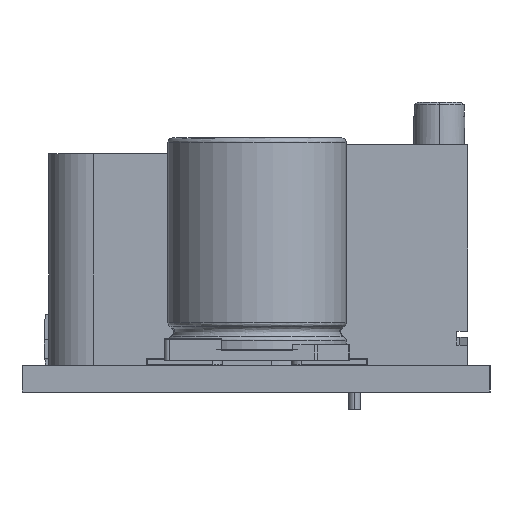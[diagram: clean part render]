
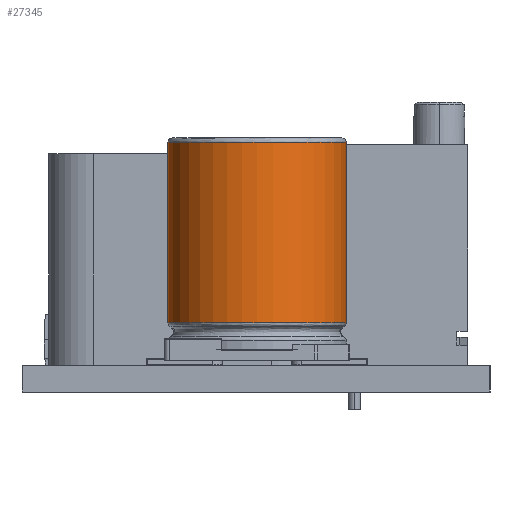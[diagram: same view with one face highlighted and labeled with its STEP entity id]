
A CAD part, left-side view. The second image highlights one B-rep face of the part: STEP entity #27345.
In plain terms, the highlighted cylindrical face has radius 4 mm (diameter 8 mm), a partial arc.
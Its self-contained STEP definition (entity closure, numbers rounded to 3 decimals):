
#2735 = DIRECTION ( 'NONE',  ( 1., 0., 0. ) ) ;
#4588 = CARTESIAN_POINT ( 'NONE',  ( 4., 0., 10. ) ) ;
#5840 = EDGE_CURVE ( 'NONE', #16696, #50299, #40120, .T. ) ;
#7129 = AXIS2_PLACEMENT_3D ( 'NONE', #10695, #46493, #45707 ) ;
#10695 = CARTESIAN_POINT ( 'NONE',  ( 0., 0., 1.903 ) ) ;
#12742 = DIRECTION ( 'NONE',  ( 0., 0., -1. ) ) ;
#16696 = VERTEX_POINT ( 'NONE', #47739 ) ;
#20204 = ORIENTED_EDGE ( 'NONE', *, *, #5840, .F. ) ;
#23226 = CIRCLE ( 'NONE', #48982, 4. ) ;
#27129 = EDGE_LOOP ( 'NONE', ( #20204, #40890, #62577, #74253 ) ) ;
#27345 = ADVANCED_FACE ( 'NONE', ( #75590 ), #66929, .T. ) ;
#33530 = DIRECTION ( 'NONE',  ( 0., 0., 1. ) ) ;
#34057 = CARTESIAN_POINT ( 'NONE',  ( 4., 0., 1.903 ) ) ;
#40120 = LINE ( 'NONE', #52032, #59586 ) ;
#40131 = AXIS2_PLACEMENT_3D ( 'NONE', #44640, #60770, #2735 ) ;
#40890 = ORIENTED_EDGE ( 'NONE', *, *, #58442, .T. ) ;
#44640 = CARTESIAN_POINT ( 'NONE',  ( 0., 0., 0.7 ) ) ;
#45707 = DIRECTION ( 'NONE',  ( 1., 0., 0. ) ) ;
#46493 = DIRECTION ( 'NONE',  ( 0., 0., 1. ) ) ;
#46690 = DIRECTION ( 'NONE',  ( 1., 0., 0. ) ) ;
#47428 = VERTEX_POINT ( 'NONE', #4588 ) ;
#47739 = CARTESIAN_POINT ( 'NONE',  ( -4., 0., 1.903 ) ) ;
#48982 = AXIS2_PLACEMENT_3D ( 'NONE', #71587, #12742, #46690 ) ;
#50299 = VERTEX_POINT ( 'NONE', #66682 ) ;
#50837 = CARTESIAN_POINT ( 'NONE',  ( 4., 0., 0.7 ) ) ;
#52032 = CARTESIAN_POINT ( 'NONE',  ( -4., 0., 0.7 ) ) ;
#57412 = VECTOR ( 'NONE', #33530, 1000. ) ;
#58442 = EDGE_CURVE ( 'NONE', #16696, #60305, #72204, .T. ) ;
#59586 = VECTOR ( 'NONE', #68557, 1000. ) ;
#60305 = VERTEX_POINT ( 'NONE', #34057 ) ;
#60770 = DIRECTION ( 'NONE',  ( 0., 0., 1. ) ) ;
#61991 = LINE ( 'NONE', #50837, #57412 ) ;
#62577 = ORIENTED_EDGE ( 'NONE', *, *, #68355, .T. ) ;
#66682 = CARTESIAN_POINT ( 'NONE',  ( -4., 0., 10. ) ) ;
#66929 = CYLINDRICAL_SURFACE ( 'NONE', #40131, 4. ) ;
#68355 = EDGE_CURVE ( 'NONE', #60305, #47428, #61991, .T. ) ;
#68557 = DIRECTION ( 'NONE',  ( 0., 0., 1. ) ) ;
#70194 = EDGE_CURVE ( 'NONE', #47428, #50299, #23226, .T. ) ;
#71587 = CARTESIAN_POINT ( 'NONE',  ( 0., 0., 10. ) ) ;
#72204 = CIRCLE ( 'NONE', #7129, 4. ) ;
#74253 = ORIENTED_EDGE ( 'NONE', *, *, #70194, .T. ) ;
#75590 = FACE_OUTER_BOUND ( 'NONE', #27129, .T. ) ;
